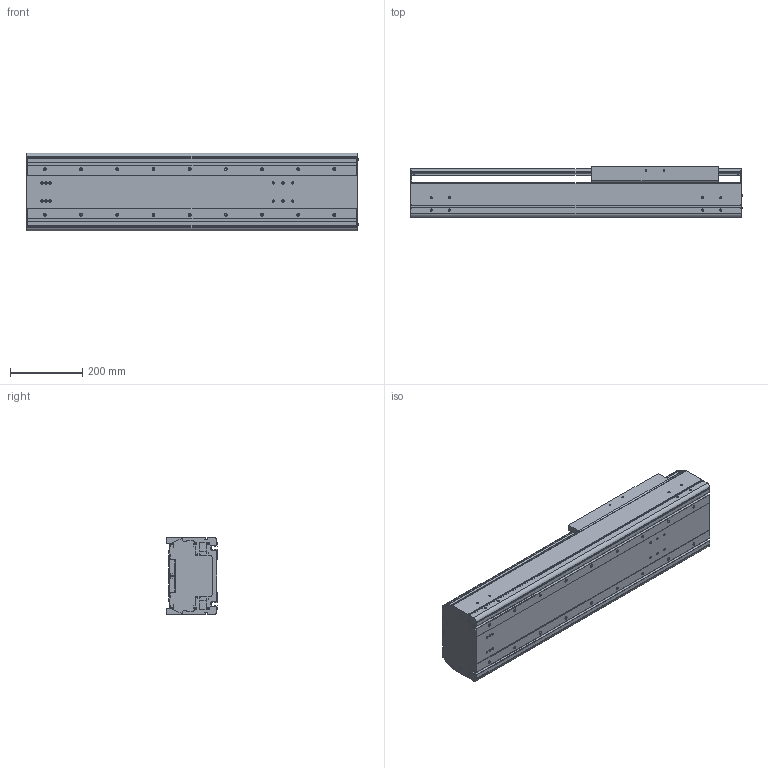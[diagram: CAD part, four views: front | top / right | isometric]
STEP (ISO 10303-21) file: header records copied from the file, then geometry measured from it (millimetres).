
FILE_DESCRIPTION((''),'2;1');
FILE_NAME('BE60G-ST-L_N-45_IGS_PRT','2017-06-18T',(' '),(''),'PRO/ENGINEER BY PARAMETRIC TECHNOLOGY CORPORATION, 2015030','PRO/ENGINEER BY PARAMETRIC TECHNOLOGY CORPORATION, 2015030','');
FILE_SCHEMA(('CONFIG_CONTROL_DESIGN'));
Length unit declared in the file: millimetre
Products named in the file (1): BE60G-ST-L_N-45_IGS_PRT
Bounding box: 917.4 x 140 x 214 mm (x, y, z)
Volume: 8186696.4 mm3; surface area: 2123446.6 mm2
Topology: 2 solids, 120 shells, 1446 faces, 3998 edges, 2617 vertices
Faces by surface type: cylinder 712, plane 590, cone 96, sphere 24, torus 24
Entity records: 47692 total; most frequent: CARTESIAN_POINT 10368, DIRECTION 7926, ORIENTED_EDGE 7344, EDGE_CURVE 3904, AXIS2_PLACEMENT_3D 2933, VERTEX_POINT 2616, VECTOR 2060, LINE 2060
